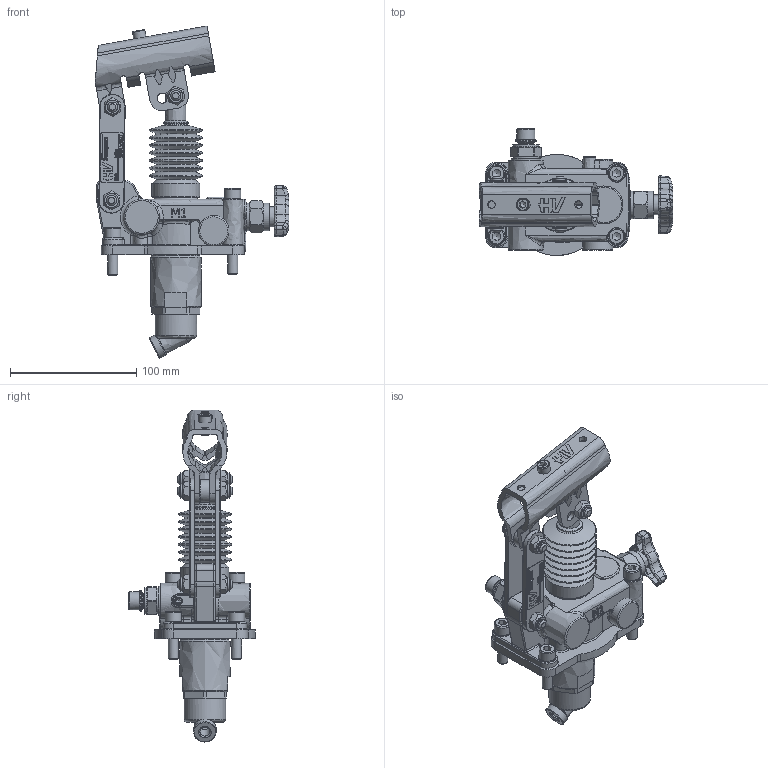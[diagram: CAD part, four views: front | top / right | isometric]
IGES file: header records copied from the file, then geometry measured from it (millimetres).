
Global section: file name: No Iges File Name specified; native system: Autodesk Inventor 2013; preprocessor: AutoDesk Inventor Iges Exporter R2013; author: christian.scardovi; date: 20240326.081641; units: millimetre
Bounding box: 153.43 x 100.49 x 263.06 mm (x, y, z)
Volume: 478668.4 mm3; surface area: 121436.4 mm2
Topology: 3 solids, 3 shells, 1675 faces, 4246 edges, 2663 vertices
Faces by surface type: bspline 1675
